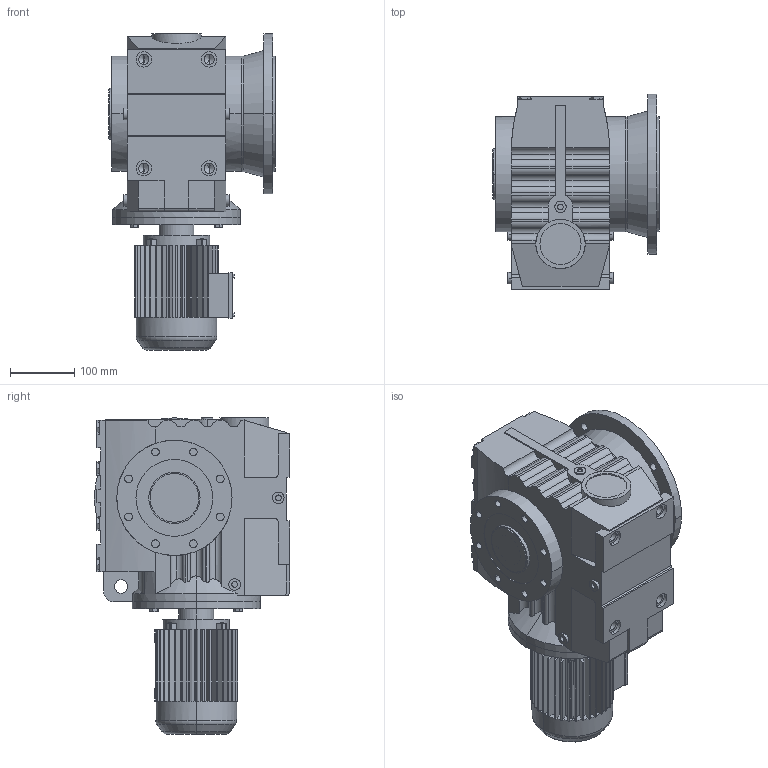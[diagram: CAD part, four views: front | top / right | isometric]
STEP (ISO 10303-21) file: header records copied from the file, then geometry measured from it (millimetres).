
FILE_DESCRIPTION(('Open CASCADE Model'),'2;1');
FILE_NAME('Open CASCADE Shape Model','2021-07-20T11:10:02',('Author'),( 'Open CASCADE'),'Open CASCADE STEP processor 6.3','Open CASCADE 6.3' ,'Unknown');
FILE_SCHEMA(('AUTOMOTIVE_DESIGN_CC2 { 1 2 10303 214 -1 1 5 4 }'));
Length unit declared in the file: millimetre
Products named in the file (5): 1_SAF77-Y63S-50-A; SA47‵97_77.step; 萇儂_200_Y63S.step; す瑩諾陑粣S_77_50.step; 楊擘S_77_250_SAF.step
Assembly tree (4 placements, depth 2):
  1_SAF77-Y63S-50-A
    SA47‵97_77.step
    萇儂_200_Y63S.step
    す瑩諾陑粣S_77_50.step
    楊擘S_77_250_SAF.step
Bounding box: 260.55 x 305 x 494 mm (x, y, z)
Volume: 16056029.1 mm3; surface area: 940543.5 mm2
Topology: 4 solids, 4 shells, 847 faces, 2202 edges, 1426 vertices
Faces by surface type: plane 531, cylinder 293, cone 19, torus 4
Entity records: 62968 total; most frequent: CARTESIAN_POINT 21639, DIRECTION 7005, ORIENTED_EDGE 4388, PCURVE 4388, DEFINITIONAL_REPRESENTATION 4388, LINE 3552, VECTOR 3552, EDGE_CURVE 2194
